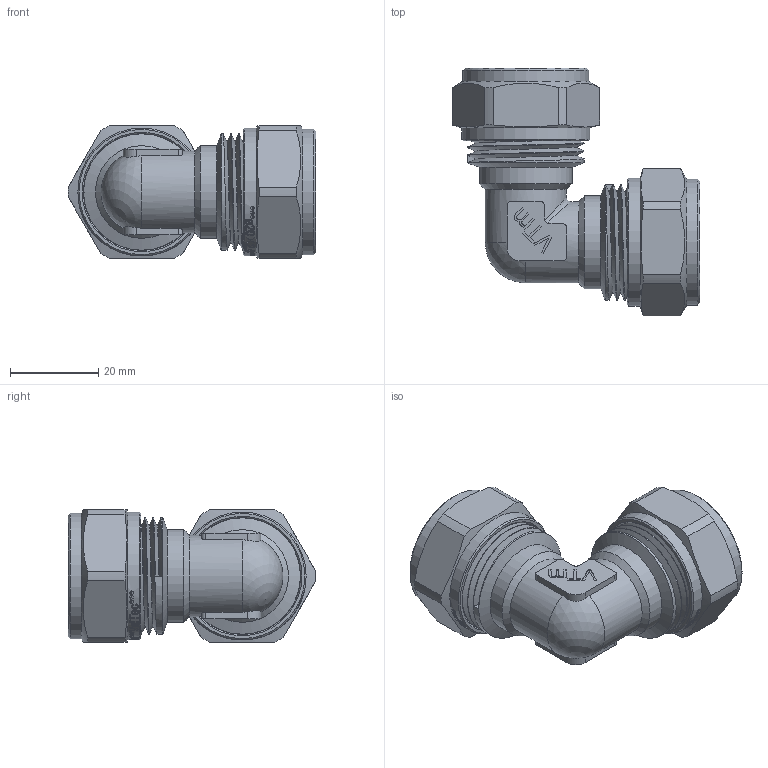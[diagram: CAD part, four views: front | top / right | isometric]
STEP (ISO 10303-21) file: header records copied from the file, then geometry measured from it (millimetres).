
FILE_DESCRIPTION(/* description */ (''),/* implementation_level */ '2;1');
FILE_NAME(/* name */ 'F:\Артём\00000\Работа удаленка\Обжимные фитинги\VTm.351.N.002020.stp',/* time_stamp */ '2020-08-06T13:12:39+03:00',/* author */ ('almis'),/* organization */ (''),/* preprocessor_version */ 'ST-DEVELOPER v18',/* originating_system */ 'Autodesk Inventor 2020',/* authorisation */ '');
FILE_SCHEMA (('AUTOMOTIVE_DESIGN { 1 0 10303 214 3 1 1 }'));
Products named in the file (1): VTm.341.N.202020
Bounding box: 56.2 x 56.19 x 30 mm (x, y, z)
Volume: 24909.4 mm3; surface area: 19860.4 mm2
Topology: 1 solids, 3 shells, 1341 faces, 3757 edges, 2532 vertices
Faces by surface type: bspline 713, plane 392, cylinder 162, torus 46, cone 26, sphere 2
Full cylindrical faces by diameter (mm): 11.5 x2, 13.4 x4, 15.75 x8, 18.444 x2, 19.986 x8, 20.2 x2, 20.728 x10, 21 x4, 22.8 x6, 23.201 x2, 24.2 x2, 26.4 x6, 28.5 x2, 29 x2
Entity records: 55812 total; most frequent: CARTESIAN_POINT 25617, ORIENTED_EDGE 7510, DIRECTION 4130, EDGE_CURVE 3755, VERTEX_POINT 2532, LINE 1646, VECTOR 1646, B_SPLINE_CURVE_WITH_KNOTS 1472
